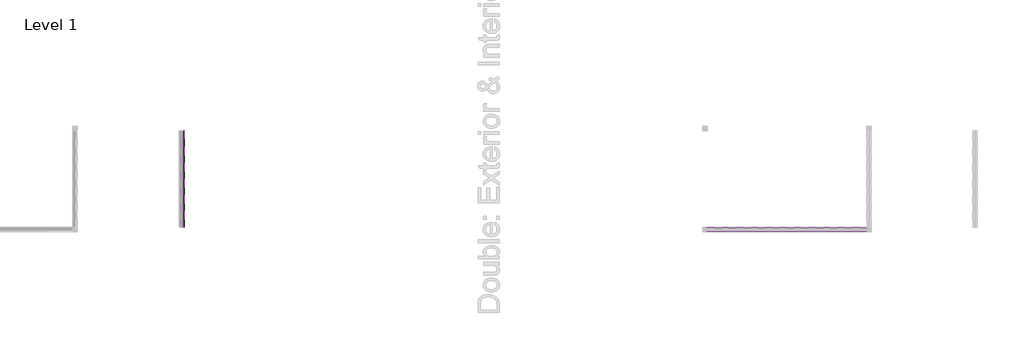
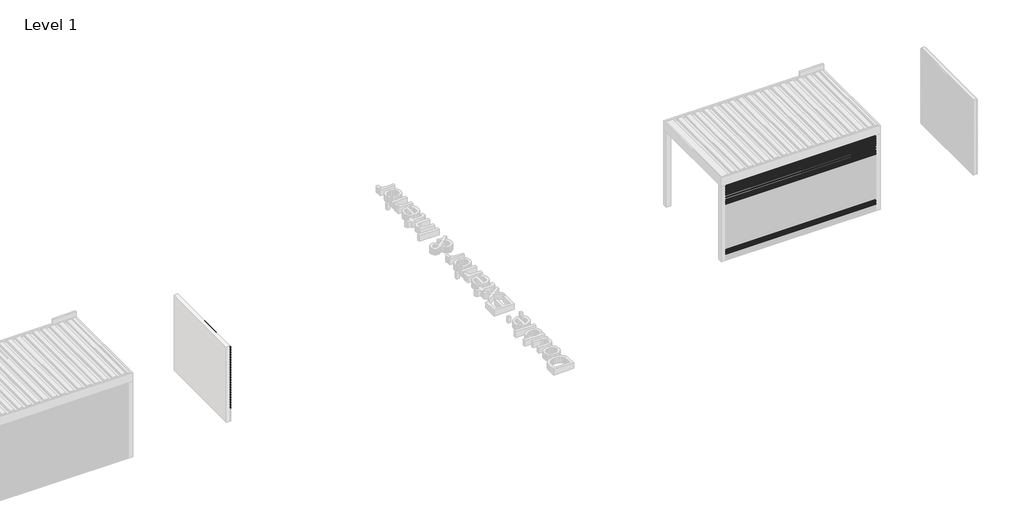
# One storey, part 41 of 47: 85 proxies.
"""IFC4 building model written with IfcOpenShell, lengths in millimetres."""

from ifc_helpers import new_model, si_unit, frame, origin, place, context, project, spatial, polyline, outline, extrude, element, save

model = new_model("IFC4")

# Units and contexts
model_context = context("Model", 3, world=origin())
ifc_project = project(units=[si_unit("LENGTHUNIT", "METRE", prefix="MILLI")], contexts=[model_context])

# Site, building, storey
site = spatial("IfcSite", under=ifc_project)
building = spatial("IfcBuilding", under=site)
storey = spatial("IfcBuildingStorey", under=building, Name="Level 1", Elevation=0.0)

# Proxies
placement = place(None, origin())
element("IfcBuildingElementProxy", 1, Name="Wall Sweeps", at=placement, inside=storey, context=model_context, shape_type="SweptSolid", body=[
    extrude(outline(polyline([(1974.0, 192892.4238385), (1985.0562577, 192873.2738385), (1998.0, 192873.2738385), (1998.0, 192872.0238385), (1984.3345698, 192872.0238385), (1973.2782281, 192891.1738385), (1961.2216933, 192891.1738385), (1960.5, 192892.4238385), (1974.0, 192892.4238385)])), frame((0.0, 39632.1593685, 0.0), z_axis=(0.0, 1.0, 0.0), x_axis=(0.0, 0.0, 1.0)), (0.0, 0.0, 1.0), 2280.0),
])
element("IfcBuildingElementProxy", 2, Name="Wall Sweeps", at=placement, inside=storey, context=model_context, shape_type="SweptSolid", body=[
    extrude(outline(polyline([(1940.7, 192892.4238385), (1951.7562577, 192873.2738385), (1964.7, 192873.2738385), (1964.7, 192872.0238385), (1951.0345698, 192872.0238385), (1939.9782281, 192891.1738385), (1927.9216933, 192891.1738385), (1927.2, 192892.4238385), (1940.7, 192892.4238385)])), frame((0.0, 39632.1593685, 0.0), z_axis=(0.0, 1.0, 0.0), x_axis=(0.0, 0.0, 1.0)), (0.0, 0.0, 1.0), 2280.0),
])
element("IfcBuildingElementProxy", 3, Name="Wall Sweeps", at=placement, inside=storey, context=model_context, shape_type="SweptSolid", body=[
    extrude(outline(polyline([(1907.4, 192892.4238385), (1918.4562577, 192873.2738385), (1931.4, 192873.2738385), (1931.4, 192872.0238385), (1917.7345698, 192872.0238385), (1906.6782281, 192891.1738385), (1894.6216933, 192891.1738385), (1893.9, 192892.4238385), (1907.4, 192892.4238385)])), frame((0.0, 39632.1593685, 0.0), z_axis=(0.0, 1.0, 0.0), x_axis=(0.0, 0.0, 1.0)), (0.0, 0.0, 1.0), 2280.0),
])
element("IfcBuildingElementProxy", 4, Name="Wall Sweeps", at=placement, inside=storey, context=model_context, shape_type="SweptSolid", body=[
    extrude(outline(polyline([(1874.1, 192892.4238385), (1885.1562577, 192873.2738385), (1898.1, 192873.2738385), (1898.1, 192872.0238385), (1884.4345698, 192872.0238385), (1873.3782281, 192891.1738385), (1861.3216933, 192891.1738385), (1860.6, 192892.4238385), (1874.1, 192892.4238385)])), frame((0.0, 39632.1593685, 0.0), z_axis=(0.0, 1.0, 0.0), x_axis=(0.0, 0.0, 1.0)), (0.0, 0.0, 1.0), 2280.0),
])
element("IfcBuildingElementProxy", 5, Name="Wall Sweeps", at=placement, inside=storey, context=model_context, shape_type="SweptSolid", body=[
    extrude(outline(polyline([(1840.8, 192892.4238385), (1851.8562577, 192873.2738385), (1864.8, 192873.2738385), (1864.8, 192872.0238385), (1851.1345698, 192872.0238385), (1840.0782281, 192891.1738385), (1828.0216933, 192891.1738385), (1827.3, 192892.4238385), (1840.8, 192892.4238385)])), frame((0.0, 39632.1593685, 0.0), z_axis=(0.0, 1.0, 0.0), x_axis=(0.0, 0.0, 1.0)), (0.0, 0.0, 1.0), 2280.0),
])
element("IfcBuildingElementProxy", 6, Name="Wall Sweeps", at=placement, inside=storey, context=model_context, shape_type="SweptSolid", body=[
    extrude(outline(polyline([(1807.5, 192892.4238385), (1818.5562577, 192873.2738385), (1831.5, 192873.2738385), (1831.5, 192872.0238385), (1817.8345698, 192872.0238385), (1806.7782281, 192891.1738385), (1794.7216933, 192891.1738385), (1794.0, 192892.4238385), (1807.5, 192892.4238385)])), frame((0.0, 39632.1593685, 0.0), z_axis=(0.0, 1.0, 0.0), x_axis=(0.0, 0.0, 1.0)), (0.0, 0.0, 1.0), 2280.0),
])
element("IfcBuildingElementProxy", 7, Name="Wall Sweeps", at=placement, inside=storey, context=model_context, shape_type="SweptSolid", body=[
    extrude(outline(polyline([(1774.2, 192892.4238385), (1785.2562577, 192873.2738385), (1798.2, 192873.2738385), (1798.2, 192872.0238385), (1784.5345698, 192872.0238385), (1773.4782281, 192891.1738385), (1761.4216933, 192891.1738385), (1760.7, 192892.4238385), (1774.2, 192892.4238385)])), frame((0.0, 39632.1593685, 0.0), z_axis=(0.0, 1.0, 0.0), x_axis=(0.0, 0.0, 1.0)), (0.0, 0.0, 1.0), 2280.0),
])
element("IfcBuildingElementProxy", 8, Name="Wall Sweeps", at=placement, inside=storey, context=model_context, shape_type="SweptSolid", body=[
    extrude(outline(polyline([(1740.9, 192892.4238385), (1751.9562577, 192873.2738385), (1764.9, 192873.2738385), (1764.9, 192872.0238385), (1751.2345698, 192872.0238385), (1740.1782281, 192891.1738385), (1728.1216933, 192891.1738385), (1727.4, 192892.4238385), (1740.9, 192892.4238385)])), frame((0.0, 39632.1593685, 0.0), z_axis=(0.0, 1.0, 0.0), x_axis=(0.0, 0.0, 1.0)), (0.0, 0.0, 1.0), 2280.0),
])
element("IfcBuildingElementProxy", 9, Name="Wall Sweeps", at=placement, inside=storey, context=model_context, shape_type="SweptSolid", body=[
    extrude(outline(polyline([(1707.6, 192892.4238385), (1718.6562577, 192873.2738385), (1731.6, 192873.2738385), (1731.6, 192872.0238385), (1717.9345698, 192872.0238385), (1706.8782281, 192891.1738385), (1694.8216933, 192891.1738385), (1694.1, 192892.4238385), (1707.6, 192892.4238385)])), frame((0.0, 39632.1593685, 0.0), z_axis=(0.0, 1.0, 0.0), x_axis=(0.0, 0.0, 1.0)), (0.0, 0.0, 1.0), 2280.0),
])
element("IfcBuildingElementProxy", 10, Name="Wall Sweeps", at=placement, inside=storey, context=model_context, shape_type="SweptSolid", body=[
    extrude(outline(polyline([(1674.3, 192892.4238385), (1685.3562577, 192873.2738385), (1698.3, 192873.2738385), (1698.3, 192872.0238385), (1684.6345698, 192872.0238385), (1673.5782281, 192891.1738385), (1661.5216933, 192891.1738385), (1660.8, 192892.4238385), (1674.3, 192892.4238385)])), frame((0.0, 39632.1593685, 0.0), z_axis=(0.0, 1.0, 0.0), x_axis=(0.0, 0.0, 1.0)), (0.0, 0.0, 1.0), 2280.0),
])
element("IfcBuildingElementProxy", 11, Name="Wall Sweeps", at=placement, inside=storey, context=model_context, shape_type="SweptSolid", body=[
    extrude(outline(polyline([(1641.0, 192892.4238385), (1652.0562577, 192873.2738385), (1665.0, 192873.2738385), (1665.0, 192872.0238385), (1651.3345698, 192872.0238385), (1640.2782281, 192891.1738385), (1628.2216933, 192891.1738385), (1627.5, 192892.4238385), (1641.0, 192892.4238385)])), frame((0.0, 39632.1593685, 0.0), z_axis=(0.0, 1.0, 0.0), x_axis=(0.0, 0.0, 1.0)), (0.0, 0.0, 1.0), 2280.0),
])
element("IfcBuildingElementProxy", 12, Name="Wall Sweeps", at=placement, inside=storey, context=model_context, shape_type="SweptSolid", body=[
    extrude(outline(polyline([(1607.7, 192892.4238385), (1618.7562577, 192873.2738385), (1631.7, 192873.2738385), (1631.7, 192872.0238385), (1618.0345698, 192872.0238385), (1606.9782281, 192891.1738385), (1594.9216933, 192891.1738385), (1594.2, 192892.4238385), (1607.7, 192892.4238385)])), frame((0.0, 39632.1593685, 0.0), z_axis=(0.0, 1.0, 0.0), x_axis=(0.0, 0.0, 1.0)), (0.0, 0.0, 1.0), 2280.0),
])
element("IfcBuildingElementProxy", 13, Name="Wall Sweeps", at=placement, inside=storey, context=model_context, shape_type="SweptSolid", body=[
    extrude(outline(polyline([(1574.4, 192892.4238385), (1585.4562577, 192873.2738385), (1598.4, 192873.2738385), (1598.4, 192872.0238385), (1584.7345698, 192872.0238385), (1573.6782281, 192891.1738385), (1561.6216933, 192891.1738385), (1560.9, 192892.4238385), (1574.4, 192892.4238385)])), frame((0.0, 39632.1593685, 0.0), z_axis=(0.0, 1.0, 0.0), x_axis=(0.0, 0.0, 1.0)), (0.0, 0.0, 1.0), 2280.0),
])
element("IfcBuildingElementProxy", 14, Name="Wall Sweeps", at=placement, inside=storey, context=model_context, shape_type="SweptSolid", body=[
    extrude(outline(polyline([(1541.1, 192892.4238385), (1552.1562577, 192873.2738385), (1565.1, 192873.2738385), (1565.1, 192872.0238385), (1551.4345698, 192872.0238385), (1540.3782281, 192891.1738385), (1528.3216933, 192891.1738385), (1527.6, 192892.4238385), (1541.1, 192892.4238385)])), frame((0.0, 39632.1593685, 0.0), z_axis=(0.0, 1.0, 0.0), x_axis=(0.0, 0.0, 1.0)), (0.0, 0.0, 1.0), 2280.0),
])
element("IfcBuildingElementProxy", 15, Name="Wall Sweeps", at=placement, inside=storey, context=model_context, shape_type="SweptSolid", body=[
    extrude(outline(polyline([(1507.8, 192892.4238385), (1518.8562577, 192873.2738385), (1531.8, 192873.2738385), (1531.8, 192872.0238385), (1518.1345698, 192872.0238385), (1507.0782281, 192891.1738385), (1495.0216933, 192891.1738385), (1494.3, 192892.4238385), (1507.8, 192892.4238385)])), frame((0.0, 39632.1593685, 0.0), z_axis=(0.0, 1.0, 0.0), x_axis=(0.0, 0.0, 1.0)), (0.0, 0.0, 1.0), 2280.0),
])
element("IfcBuildingElementProxy", 16, Name="Wall Sweeps", at=placement, inside=storey, context=model_context, shape_type="SweptSolid", body=[
    extrude(outline(polyline([(1474.5, 192892.4238385), (1485.5562577, 192873.2738385), (1498.5, 192873.2738385), (1498.5, 192872.0238385), (1484.8345698, 192872.0238385), (1473.7782281, 192891.1738385), (1461.7216933, 192891.1738385), (1461.0, 192892.4238385), (1474.5, 192892.4238385)])), frame((0.0, 39632.1593685, 0.0), z_axis=(0.0, 1.0, 0.0), x_axis=(0.0, 0.0, 1.0)), (0.0, 0.0, 1.0), 2280.0),
])
element("IfcBuildingElementProxy", 17, Name="Wall Sweeps", at=placement, inside=storey, context=model_context, shape_type="SweptSolid", body=[
    extrude(outline(polyline([(1441.2, 192892.4238385), (1452.2562577, 192873.2738385), (1465.2, 192873.2738385), (1465.2, 192872.0238385), (1451.5345698, 192872.0238385), (1440.4782281, 192891.1738385), (1428.4216933, 192891.1738385), (1427.7, 192892.4238385), (1441.2, 192892.4238385)])), frame((0.0, 39632.1593685, 0.0), z_axis=(0.0, 1.0, 0.0), x_axis=(0.0, 0.0, 1.0)), (0.0, 0.0, 1.0), 2280.0),
])
element("IfcBuildingElementProxy", 18, Name="Wall Sweeps", at=placement, inside=storey, context=model_context, shape_type="SweptSolid", body=[
    extrude(outline(polyline([(1407.9, 192892.4238385), (1418.9562577, 192873.2738385), (1431.9, 192873.2738385), (1431.9, 192872.0238385), (1418.2345698, 192872.0238385), (1407.1782281, 192891.1738385), (1395.1216933, 192891.1738385), (1394.4, 192892.4238385), (1407.9, 192892.4238385)])), frame((0.0, 39632.1593685, 0.0), z_axis=(0.0, 1.0, 0.0), x_axis=(0.0, 0.0, 1.0)), (0.0, 0.0, 1.0), 2280.0),
])
element("IfcBuildingElementProxy", 19, Name="Wall Sweeps", at=placement, inside=storey, context=model_context, shape_type="SweptSolid", body=[
    extrude(outline(polyline([(1374.6, 192892.4238385), (1385.6562577, 192873.2738385), (1398.6, 192873.2738385), (1398.6, 192872.0238385), (1384.9345698, 192872.0238385), (1373.8782281, 192891.1738385), (1361.8216933, 192891.1738385), (1361.1, 192892.4238385), (1374.6, 192892.4238385)])), frame((0.0, 39632.1593685, 0.0), z_axis=(0.0, 1.0, 0.0), x_axis=(0.0, 0.0, 1.0)), (0.0, 0.0, 1.0), 2280.0),
])
element("IfcBuildingElementProxy", 20, Name="Wall Sweeps", at=placement, inside=storey, context=model_context, shape_type="SweptSolid", body=[
    extrude(outline(polyline([(1341.3, 192892.4238385), (1352.3562577, 192873.2738385), (1365.3, 192873.2738385), (1365.3, 192872.0238385), (1351.6345698, 192872.0238385), (1340.5782281, 192891.1738385), (1328.5216933, 192891.1738385), (1327.8, 192892.4238385), (1341.3, 192892.4238385)])), frame((0.0, 39632.1593685, 0.0), z_axis=(0.0, 1.0, 0.0), x_axis=(0.0, 0.0, 1.0)), (0.0, 0.0, 1.0), 2280.0),
])
element("IfcBuildingElementProxy", 21, Name="Wall Sweeps", at=placement, inside=storey, context=model_context, shape_type="SweptSolid", body=[
    extrude(outline(polyline([(1308.0, 192892.4238385), (1319.0562577, 192873.2738385), (1332.0, 192873.2738385), (1332.0, 192872.0238385), (1318.3345698, 192872.0238385), (1307.2782281, 192891.1738385), (1295.2216933, 192891.1738385), (1294.5, 192892.4238385), (1308.0, 192892.4238385)])), frame((0.0, 39632.1593685, 0.0), z_axis=(0.0, 1.0, 0.0), x_axis=(0.0, 0.0, 1.0)), (0.0, 0.0, 1.0), 2280.0),
])
element("IfcBuildingElementProxy", 22, Name="Wall Sweeps", at=placement, inside=storey, context=model_context, shape_type="SweptSolid", body=[
    extrude(outline(polyline([(1274.7, 192892.4238385), (1285.7562577, 192873.2738385), (1298.7, 192873.2738385), (1298.7, 192872.0238385), (1285.0345698, 192872.0238385), (1273.9782281, 192891.1738385), (1261.9216933, 192891.1738385), (1261.2, 192892.4238385), (1274.7, 192892.4238385)])), frame((0.0, 39632.1593685, 0.0), z_axis=(0.0, 1.0, 0.0), x_axis=(0.0, 0.0, 1.0)), (0.0, 0.0, 1.0), 2280.0),
])
element("IfcBuildingElementProxy", 23, Name="Wall Sweeps", at=placement, inside=storey, context=model_context, shape_type="SweptSolid", body=[
    extrude(outline(polyline([(1241.4, 192892.4238385), (1252.4562577, 192873.2738385), (1265.4, 192873.2738385), (1265.4, 192872.0238385), (1251.7345698, 192872.0238385), (1240.6782281, 192891.1738385), (1228.6216933, 192891.1738385), (1227.9, 192892.4238385), (1241.4, 192892.4238385)])), frame((0.0, 39632.1593685, 0.0), z_axis=(0.0, 1.0, 0.0), x_axis=(0.0, 0.0, 1.0)), (0.0, 0.0, 1.0), 2280.0),
])
element("IfcBuildingElementProxy", 24, Name="Wall Sweeps", at=placement, inside=storey, context=model_context, shape_type="SweptSolid", body=[
    extrude(outline(polyline([(1208.1, 192892.4238385), (1219.1562577, 192873.2738385), (1232.1, 192873.2738385), (1232.1, 192872.0238385), (1218.4345698, 192872.0238385), (1207.3782281, 192891.1738385), (1195.3216933, 192891.1738385), (1194.6, 192892.4238385), (1208.1, 192892.4238385)])), frame((0.0, 39632.1593685, 0.0), z_axis=(0.0, 1.0, 0.0), x_axis=(0.0, 0.0, 1.0)), (0.0, 0.0, 1.0), 2280.0),
])
element("IfcBuildingElementProxy", 25, Name="Wall Sweeps", at=placement, inside=storey, context=model_context, shape_type="SweptSolid", body=[
    extrude(outline(polyline([(1174.8, 192892.4238385), (1185.8562577, 192873.2738385), (1198.8, 192873.2738385), (1198.8, 192872.0238385), (1185.1345698, 192872.0238385), (1174.0782281, 192891.1738385), (1162.0216933, 192891.1738385), (1161.3, 192892.4238385), (1174.8, 192892.4238385)])), frame((0.0, 39632.1593685, 0.0), z_axis=(0.0, 1.0, 0.0), x_axis=(0.0, 0.0, 1.0)), (0.0, 0.0, 1.0), 2280.0),
])
element("IfcBuildingElementProxy", 26, Name="Wall Sweeps", at=placement, inside=storey, context=model_context, shape_type="SweptSolid", body=[
    extrude(outline(polyline([(1141.5, 192892.4238385), (1152.5562577, 192873.2738385), (1165.5, 192873.2738385), (1165.5, 192872.0238385), (1151.8345698, 192872.0238385), (1140.7782281, 192891.1738385), (1128.7216933, 192891.1738385), (1128.0, 192892.4238385), (1141.5, 192892.4238385)])), frame((0.0, 39632.1593685, 0.0), z_axis=(0.0, 1.0, 0.0), x_axis=(0.0, 0.0, 1.0)), (0.0, 0.0, 1.0), 2280.0),
])
element("IfcBuildingElementProxy", 27, Name="Wall Sweeps", at=placement, inside=storey, context=model_context, shape_type="SweptSolid", body=[
    extrude(outline(polyline([(1108.2, 192892.4238385), (1119.2562577, 192873.2738385), (1132.2, 192873.2738385), (1132.2, 192872.0238385), (1118.5345698, 192872.0238385), (1107.4782281, 192891.1738385), (1095.4216933, 192891.1738385), (1094.7, 192892.4238385), (1108.2, 192892.4238385)])), frame((0.0, 39632.1593685, 0.0), z_axis=(0.0, 1.0, 0.0), x_axis=(0.0, 0.0, 1.0)), (0.0, 0.0, 1.0), 2280.0),
])
element("IfcBuildingElementProxy", 28, Name="Wall Sweeps", at=placement, inside=storey, context=model_context, shape_type="SweptSolid", body=[
    extrude(outline(polyline([(1074.9, 192892.4238385), (1085.9562577, 192873.2738385), (1098.9, 192873.2738385), (1098.9, 192872.0238385), (1085.2345698, 192872.0238385), (1074.1782281, 192891.1738385), (1062.1216933, 192891.1738385), (1061.4, 192892.4238385), (1074.9, 192892.4238385)])), frame((0.0, 39632.1593685, 0.0), z_axis=(0.0, 1.0, 0.0), x_axis=(0.0, 0.0, 1.0)), (0.0, 0.0, 1.0), 2280.0),
])
element("IfcBuildingElementProxy", 29, Name="Wall Sweeps", at=placement, inside=storey, context=model_context, shape_type="SweptSolid", body=[
    extrude(outline(polyline([(1041.6, 192892.4238385), (1052.6562577, 192873.2738385), (1065.6, 192873.2738385), (1065.6, 192872.0238385), (1051.9345698, 192872.0238385), (1040.8782281, 192891.1738385), (1028.8216933, 192891.1738385), (1028.1, 192892.4238385), (1041.6, 192892.4238385)])), frame((0.0, 39632.1593685, 0.0), z_axis=(0.0, 1.0, 0.0), x_axis=(0.0, 0.0, 1.0)), (0.0, 0.0, 1.0), 2280.0),
])
element("IfcBuildingElementProxy", 30, Name="Wall Sweeps", at=placement, inside=storey, context=model_context, shape_type="SweptSolid", body=[
    extrude(outline(polyline([(1008.3, 192892.4238385), (1019.3562577, 192873.2738385), (1032.3, 192873.2738385), (1032.3, 192872.0238385), (1018.6345698, 192872.0238385), (1007.5782281, 192891.1738385), (995.5216933, 192891.1738385), (994.8, 192892.4238385), (1008.3, 192892.4238385)])), frame((0.0, 39632.1593685, 0.0), z_axis=(0.0, 1.0, 0.0), x_axis=(0.0, 0.0, 1.0)), (0.0, 0.0, 1.0), 2280.0),
])
element("IfcBuildingElementProxy", 31, Name="Wall Sweeps", at=placement, inside=storey, context=model_context, shape_type="SweptSolid", body=[
    extrude(outline(polyline([(975.0, 192892.4238385), (986.0562577, 192873.2738385), (999.0, 192873.2738385), (999.0, 192872.0238385), (985.3345698, 192872.0238385), (974.2782281, 192891.1738385), (962.2216933, 192891.1738385), (961.5, 192892.4238385), (975.0, 192892.4238385)])), frame((0.0, 39632.1593685, 0.0), z_axis=(0.0, 1.0, 0.0), x_axis=(0.0, 0.0, 1.0)), (0.0, 0.0, 1.0), 2280.0),
])
element("IfcBuildingElementProxy", 32, Name="Wall Sweeps", at=placement, inside=storey, context=model_context, shape_type="SweptSolid", body=[
    extrude(outline(polyline([(941.7, 192892.4238385), (952.7562577, 192873.2738385), (965.7, 192873.2738385), (965.7, 192872.0238385), (952.0345698, 192872.0238385), (940.9782281, 192891.1738385), (928.9216933, 192891.1738385), (928.2, 192892.4238385), (941.7, 192892.4238385)])), frame((0.0, 39632.1593685, 0.0), z_axis=(0.0, 1.0, 0.0), x_axis=(0.0, 0.0, 1.0)), (0.0, 0.0, 1.0), 2280.0),
])
element("IfcBuildingElementProxy", 33, Name="Wall Sweeps", at=placement, inside=storey, context=model_context, shape_type="SweptSolid", body=[
    extrude(outline(polyline([(908.4, 192892.4238385), (919.4562577, 192873.2738385), (932.4, 192873.2738385), (932.4, 192872.0238385), (918.7345698, 192872.0238385), (907.6782281, 192891.1738385), (895.6216933, 192891.1738385), (894.9, 192892.4238385), (908.4, 192892.4238385)])), frame((0.0, 39632.1593685, 0.0), z_axis=(0.0, 1.0, 0.0), x_axis=(0.0, 0.0, 1.0)), (0.0, 0.0, 1.0), 2280.0),
])
element("IfcBuildingElementProxy", 34, Name="Wall Sweeps", at=placement, inside=storey, context=model_context, shape_type="SweptSolid", body=[
    extrude(outline(polyline([(875.1, 192892.4238385), (886.1562577, 192873.2738385), (899.1, 192873.2738385), (899.1, 192872.0238385), (885.4345698, 192872.0238385), (874.3782281, 192891.1738385), (862.3216933, 192891.1738385), (861.6, 192892.4238385), (875.1, 192892.4238385)])), frame((0.0, 39632.1593685, 0.0), z_axis=(0.0, 1.0, 0.0), x_axis=(0.0, 0.0, 1.0)), (0.0, 0.0, 1.0), 2280.0),
])
element("IfcBuildingElementProxy", 35, Name="Wall Sweeps", at=placement, inside=storey, context=model_context, shape_type="SweptSolid", body=[
    extrude(outline(polyline([(841.8, 192892.4238385), (852.8562577, 192873.2738385), (865.8, 192873.2738385), (865.8, 192872.0238385), (852.1345698, 192872.0238385), (841.0782281, 192891.1738385), (829.0216933, 192891.1738385), (828.3, 192892.4238385), (841.8, 192892.4238385)])), frame((0.0, 39632.1593685, 0.0), z_axis=(0.0, 1.0, 0.0), x_axis=(0.0, 0.0, 1.0)), (0.0, 0.0, 1.0), 2280.0),
])
element("IfcBuildingElementProxy", 36, Name="Wall Sweeps", at=placement, inside=storey, context=model_context, shape_type="SweptSolid", body=[
    extrude(outline(polyline([(808.5, 192892.4238385), (819.5562577, 192873.2738385), (832.5, 192873.2738385), (832.5, 192872.0238385), (818.8345698, 192872.0238385), (807.7782281, 192891.1738385), (795.7216933, 192891.1738385), (795.0, 192892.4238385), (808.5, 192892.4238385)])), frame((0.0, 39632.1593685, 0.0), z_axis=(0.0, 1.0, 0.0), x_axis=(0.0, 0.0, 1.0)), (0.0, 0.0, 1.0), 2280.0),
])
element("IfcBuildingElementProxy", 37, Name="Wall Sweeps", at=placement, inside=storey, context=model_context, shape_type="SweptSolid", body=[
    extrude(outline(polyline([(775.2, 192892.4238385), (786.2562577, 192873.2738385), (799.2, 192873.2738385), (799.2, 192872.0238385), (785.5345698, 192872.0238385), (774.4782281, 192891.1738385), (762.4216933, 192891.1738385), (761.7, 192892.4238385), (775.2, 192892.4238385)])), frame((0.0, 39632.1593685, 0.0), z_axis=(0.0, 1.0, 0.0), x_axis=(0.0, 0.0, 1.0)), (0.0, 0.0, 1.0), 2280.0),
])
element("IfcBuildingElementProxy", 38, Name="Wall Sweeps", at=placement, inside=storey, context=model_context, shape_type="SweptSolid", body=[
    extrude(outline(polyline([(741.9, 192892.4238385), (752.9562577, 192873.2738385), (765.9, 192873.2738385), (765.9, 192872.0238385), (752.2345698, 192872.0238385), (741.1782281, 192891.1738385), (729.1216933, 192891.1738385), (728.4, 192892.4238385), (741.9, 192892.4238385)])), frame((0.0, 39632.1593685, 0.0), z_axis=(0.0, 1.0, 0.0), x_axis=(0.0, 0.0, 1.0)), (0.0, 0.0, 1.0), 2280.0),
])
element("IfcBuildingElementProxy", 39, Name="Wall Sweeps", at=placement, inside=storey, context=model_context, shape_type="SweptSolid", body=[
    extrude(outline(polyline([(708.6, 192892.4238385), (719.6562577, 192873.2738385), (732.6, 192873.2738385), (732.6, 192872.0238385), (718.9345698, 192872.0238385), (707.8782281, 192891.1738385), (695.8216933, 192891.1738385), (695.1, 192892.4238385), (708.6, 192892.4238385)])), frame((0.0, 39632.1593685, 0.0), z_axis=(0.0, 1.0, 0.0), x_axis=(0.0, 0.0, 1.0)), (0.0, 0.0, 1.0), 2280.0),
])
element("IfcBuildingElementProxy", 40, Name="Wall Sweeps", at=placement, inside=storey, context=model_context, shape_type="SweptSolid", body=[
    extrude(outline(polyline([(675.3, 192892.4238385), (686.3562577, 192873.2738385), (699.3, 192873.2738385), (699.3, 192872.0238385), (685.6345698, 192872.0238385), (674.5782281, 192891.1738385), (662.5216933, 192891.1738385), (661.8, 192892.4238385), (675.3, 192892.4238385)])), frame((0.0, 39632.1593685, 0.0), z_axis=(0.0, 1.0, 0.0), x_axis=(0.0, 0.0, 1.0)), (0.0, 0.0, 1.0), 2280.0),
])
element("IfcBuildingElementProxy", 41, Name="Wall Sweeps", at=placement, inside=storey, context=model_context, shape_type="SweptSolid", body=[
    extrude(outline(polyline([(642.0, 192892.4238385), (653.0562577, 192873.2738385), (666.0, 192873.2738385), (666.0, 192872.0238385), (652.3345698, 192872.0238385), (641.2782281, 192891.1738385), (629.2216933, 192891.1738385), (628.5, 192892.4238385), (642.0, 192892.4238385)])), frame((0.0, 39632.1593685, 0.0), z_axis=(0.0, 1.0, 0.0), x_axis=(0.0, 0.0, 1.0)), (0.0, 0.0, 1.0), 2280.0),
])
element("IfcBuildingElementProxy", 42, Name="Wall Sweeps", at=placement, inside=storey, context=model_context, shape_type="SweptSolid", body=[
    extrude(outline(polyline([(608.7, 192892.4238385), (619.7562577, 192873.2738385), (632.7, 192873.2738385), (632.7, 192872.0238385), (619.0345698, 192872.0238385), (607.9782281, 192891.1738385), (595.9216933, 192891.1738385), (595.2, 192892.4238385), (608.7, 192892.4238385)])), frame((0.0, 39632.1593685, 0.0), z_axis=(0.0, 1.0, 0.0), x_axis=(0.0, 0.0, 1.0)), (0.0, 0.0, 1.0), 2280.0),
])
element("IfcBuildingElementProxy", 43, Name="Wall Sweeps", at=placement, inside=storey, context=model_context, shape_type="SweptSolid", body=[
    extrude(outline(polyline([(575.4, 192892.4238385), (586.4562577, 192873.2738385), (599.4, 192873.2738385), (599.4, 192872.0238385), (585.7345698, 192872.0238385), (574.6782281, 192891.1738385), (562.6216933, 192891.1738385), (561.9, 192892.4238385), (575.4, 192892.4238385)])), frame((0.0, 39632.1593685, 0.0), z_axis=(0.0, 1.0, 0.0), x_axis=(0.0, 0.0, 1.0)), (0.0, 0.0, 1.0), 2280.0),
])
element("IfcBuildingElementProxy", 44, Name="Wall Sweeps", at=placement, inside=storey, context=model_context, shape_type="SweptSolid", body=[
    extrude(outline(polyline([(542.1, 192892.4238385), (553.1562577, 192873.2738385), (566.1, 192873.2738385), (566.1, 192872.0238385), (552.4345698, 192872.0238385), (541.3782281, 192891.1738385), (529.3216933, 192891.1738385), (528.6, 192892.4238385), (542.1, 192892.4238385)])), frame((0.0, 39632.1593685, 0.0), z_axis=(0.0, 1.0, 0.0), x_axis=(0.0, 0.0, 1.0)), (0.0, 0.0, 1.0), 2280.0),
])
element("IfcBuildingElementProxy", 45, Name="Wall Sweeps", at=placement, inside=storey, context=model_context, shape_type="SweptSolid", body=[
    extrude(outline(polyline([(508.8, 192892.4238385), (519.8562577, 192873.2738385), (532.8, 192873.2738385), (532.8, 192872.0238385), (519.1345698, 192872.0238385), (508.0782281, 192891.1738385), (496.0216933, 192891.1738385), (495.3, 192892.4238385), (508.8, 192892.4238385)])), frame((0.0, 39632.1593685, 0.0), z_axis=(0.0, 1.0, 0.0), x_axis=(0.0, 0.0, 1.0)), (0.0, 0.0, 1.0), 2280.0),
])
element("IfcBuildingElementProxy", 46, Name="Wall Sweeps", at=placement, inside=storey, context=model_context, shape_type="SweptSolid", body=[
    extrude(outline(polyline([(475.5, 192892.4238385), (486.5562577, 192873.2738385), (499.5, 192873.2738385), (499.5, 192872.0238385), (485.8345698, 192872.0238385), (474.7782281, 192891.1738385), (462.7216933, 192891.1738385), (462.0, 192892.4238385), (475.5, 192892.4238385)])), frame((0.0, 39632.1593685, 0.0), z_axis=(0.0, 1.0, 0.0), x_axis=(0.0, 0.0, 1.0)), (0.0, 0.0, 1.0), 2280.0),
])
element("IfcBuildingElementProxy", 47, Name="Wall Sweeps", at=placement, inside=storey, context=model_context, shape_type="SweptSolid", body=[
    extrude(outline(polyline([(442.2, 192892.4238385), (453.2562577, 192873.2738385), (466.2, 192873.2738385), (466.2, 192872.0238385), (452.5345698, 192872.0238385), (441.4782281, 192891.1738385), (429.4216933, 192891.1738385), (428.7, 192892.4238385), (442.2, 192892.4238385)])), frame((0.0, 39632.1593685, 0.0), z_axis=(0.0, 1.0, 0.0), x_axis=(0.0, 0.0, 1.0)), (0.0, 0.0, 1.0), 2280.0),
])
element("IfcBuildingElementProxy", 48, Name="Wall Sweeps", at=placement, inside=storey, context=model_context, shape_type="SweptSolid", body=[
    extrude(outline(polyline([(408.9, 192892.4238385), (419.9562577, 192873.2738385), (432.9, 192873.2738385), (432.9, 192872.0238385), (419.2345698, 192872.0238385), (408.1782281, 192891.1738385), (396.1216933, 192891.1738385), (395.4, 192892.4238385), (408.9, 192892.4238385)])), frame((0.0, 39632.1593685, 0.0), z_axis=(0.0, 1.0, 0.0), x_axis=(0.0, 0.0, 1.0)), (0.0, 0.0, 1.0), 2280.0),
])
element("IfcBuildingElementProxy", 49, Name="Wall Sweeps", at=placement, inside=storey, context=model_context, shape_type="SweptSolid", body=[
    extrude(outline(polyline([(375.6, 192892.4238385), (386.6562577, 192873.2738385), (399.6, 192873.2738385), (399.6, 192872.0238385), (385.9345698, 192872.0238385), (374.8782281, 192891.1738385), (362.8216933, 192891.1738385), (362.1, 192892.4238385), (375.6, 192892.4238385)])), frame((0.0, 39632.1593685, 0.0), z_axis=(0.0, 1.0, 0.0), x_axis=(0.0, 0.0, 1.0)), (0.0, 0.0, 1.0), 2280.0),
])
element("IfcBuildingElementProxy", 50, Name="Wall Sweeps", at=placement, inside=storey, context=model_context, shape_type="SweptSolid", body=[
    extrude(outline(polyline([(342.3, 192892.4238385), (353.3562577, 192873.2738385), (366.3, 192873.2738385), (366.3, 192872.0238385), (352.6345698, 192872.0238385), (341.5782281, 192891.1738385), (329.5216933, 192891.1738385), (328.8, 192892.4238385), (342.3, 192892.4238385)])), frame((0.0, 39632.1593685, 0.0), z_axis=(0.0, 1.0, 0.0), x_axis=(0.0, 0.0, 1.0)), (0.0, 0.0, 1.0), 2280.0),
])
element("IfcBuildingElementProxy", 51, Name="Wall Sweeps", at=placement, inside=storey, context=model_context, shape_type="SweptSolid", body=[
    extrude(outline(polyline([(39522.1593685, 1507.8), (39541.3093685, 1518.8562577), (39541.3093685, 1531.8), (39542.5593685, 1531.8), (39542.5593685, 1518.1345698), (39523.4093685, 1507.0782281), (39523.4093685, 1495.0216933), (39522.1593685, 1494.3), (39522.1593685, 1507.8)])), frame((205282.4238385, 0.0, 0.0), z_axis=(1.0, 0.0, 0.0), x_axis=(0.0, 1.0, 0.0)), (0.0, 0.0, 1.0), 3780.0),
])
element("IfcBuildingElementProxy", 52, Name="Wall Sweeps", at=placement, inside=storey, context=model_context, shape_type="SweptSolid", body=[
    extrude(outline(polyline([(39632.1593685, 1507.8), (39632.1593685, 1494.3), (39630.9093685, 1495.0216933), (39630.9093685, 1507.0782281), (39611.7593685, 1518.1345698), (39611.7593685, 1531.8), (39613.0093685, 1531.8), (39613.0093685, 1518.8562577), (39632.1593685, 1507.8)])), frame((205282.4238385, 0.0, 0.0), z_axis=(1.0, 0.0, 0.0), x_axis=(0.0, 1.0, 0.0)), (0.0, 0.0, 1.0), 3780.0),
])
element("IfcBuildingElementProxy", 53, Name="Wall Sweeps", at=placement, inside=storey, context=model_context, shape_type="SweptSolid", body=[
    extrude(outline(polyline([(39522.1593685, 1541.1), (39541.3093685, 1552.1562577), (39541.3093685, 1565.1), (39542.5593685, 1565.1), (39542.5593685, 1551.4345698), (39523.4093685, 1540.3782281), (39523.4093685, 1528.3216933), (39522.1593685, 1527.6), (39522.1593685, 1541.1)])), frame((205282.4238385, 0.0, 0.0), z_axis=(1.0, 0.0, 0.0), x_axis=(0.0, 1.0, 0.0)), (0.0, 0.0, 1.0), 3780.0),
])
element("IfcBuildingElementProxy", 54, Name="Wall Sweeps", at=placement, inside=storey, context=model_context, shape_type="SweptSolid", body=[
    extrude(outline(polyline([(39632.1593685, 1541.1), (39632.1593685, 1527.6), (39630.9093685, 1528.3216933), (39630.9093685, 1540.3782281), (39611.7593685, 1551.4345698), (39611.7593685, 1565.1), (39613.0093685, 1565.1), (39613.0093685, 1552.1562577), (39632.1593685, 1541.1)])), frame((205282.4238385, 0.0, 0.0), z_axis=(1.0, 0.0, 0.0), x_axis=(0.0, 1.0, 0.0)), (0.0, 0.0, 1.0), 3780.0),
])
element("IfcBuildingElementProxy", 55, Name="Wall Sweeps", at=placement, inside=storey, context=model_context, shape_type="SweptSolid", body=[
    extrude(outline(polyline([(39522.1593685, 1574.4), (39541.3093685, 1585.4562577), (39541.3093685, 1598.4), (39542.5593685, 1598.4), (39542.5593685, 1584.7345698), (39523.4093685, 1573.6782281), (39523.4093685, 1561.6216933), (39522.1593685, 1560.9), (39522.1593685, 1574.4)])), frame((205282.4238385, 0.0, 0.0), z_axis=(1.0, 0.0, 0.0), x_axis=(0.0, 1.0, 0.0)), (0.0, 0.0, 1.0), 3780.0),
])
element("IfcBuildingElementProxy", 56, Name="Wall Sweeps", at=placement, inside=storey, context=model_context, shape_type="SweptSolid", body=[
    extrude(outline(polyline([(39632.1593685, 1574.4), (39632.1593685, 1560.9), (39630.9093685, 1561.6216933), (39630.9093685, 1573.6782281), (39611.7593685, 1584.7345698), (39611.7593685, 1598.4), (39613.0093685, 1598.4), (39613.0093685, 1585.4562577), (39632.1593685, 1574.4)])), frame((205282.4238385, 0.0, 0.0), z_axis=(1.0, 0.0, 0.0), x_axis=(0.0, 1.0, 0.0)), (0.0, 0.0, 1.0), 3780.0),
])
element("IfcBuildingElementProxy", 57, Name="Wall Sweeps", at=placement, inside=storey, context=model_context, shape_type="SweptSolid", body=[
    extrude(outline(polyline([(39522.1593685, 1607.7), (39541.3093685, 1618.7562577), (39541.3093685, 1631.7), (39542.5593685, 1631.7), (39542.5593685, 1618.0345698), (39523.4093685, 1606.9782281), (39523.4093685, 1594.9216933), (39522.1593685, 1594.2), (39522.1593685, 1607.7)])), frame((205282.4238385, 0.0, 0.0), z_axis=(1.0, 0.0, 0.0), x_axis=(0.0, 1.0, 0.0)), (0.0, 0.0, 1.0), 3780.0),
])
element("IfcBuildingElementProxy", 58, Name="Wall Sweeps", at=placement, inside=storey, context=model_context, shape_type="SweptSolid", body=[
    extrude(outline(polyline([(39632.1593685, 1607.7), (39632.1593685, 1594.2), (39630.9093685, 1594.9216933), (39630.9093685, 1606.9782281), (39611.7593685, 1618.0345698), (39611.7593685, 1631.7), (39613.0093685, 1631.7), (39613.0093685, 1618.7562577), (39632.1593685, 1607.7)])), frame((205282.4238385, 0.0, 0.0), z_axis=(1.0, 0.0, 0.0), x_axis=(0.0, 1.0, 0.0)), (0.0, 0.0, 1.0), 3780.0),
])
element("IfcBuildingElementProxy", 59, Name="Wall Sweeps", at=placement, inside=storey, context=model_context, shape_type="SweptSolid", body=[
    extrude(outline(polyline([(39632.1593685, 142.7), (39632.1593685, 129.2), (39630.9093685, 129.9216933), (39630.9093685, 141.9782281), (39611.7593685, 153.0345698), (39611.7593685, 166.7), (39613.0093685, 166.7), (39613.0093685, 153.7562577), (39632.1593685, 142.7)])), frame((205282.4238385, 0.0, 0.0), z_axis=(1.0, 0.0, 0.0), x_axis=(0.0, 1.0, 0.0)), (0.0, 0.0, 1.0), 3780.0),
])
element("IfcBuildingElementProxy", 60, Name="Wall Sweeps", at=placement, inside=storey, context=model_context, shape_type="SweptSolid", body=[
    extrude(outline(polyline([(39522.1593685, 1674.3), (39541.3093685, 1685.3562577), (39541.3093685, 1698.3), (39542.5593685, 1698.3), (39542.5593685, 1684.6345698), (39523.4093685, 1673.5782281), (39523.4093685, 1661.5216933), (39522.1593685, 1660.8), (39522.1593685, 1674.3)])), frame((205282.4238385, 0.0, 0.0), z_axis=(1.0, 0.0, 0.0), x_axis=(0.0, 1.0, 0.0)), (0.0, 0.0, 1.0), 3780.0),
])
element("IfcBuildingElementProxy", 61, Name="Wall Sweeps", at=placement, inside=storey, context=model_context, shape_type="SweptSolid", body=[
    extrude(outline(polyline([(39632.1593685, 1674.3), (39632.1593685, 1660.8), (39630.9093685, 1661.5216933), (39630.9093685, 1673.5782281), (39611.7593685, 1684.6345698), (39611.7593685, 1698.3), (39613.0093685, 1698.3), (39613.0093685, 1685.3562577), (39632.1593685, 1674.3)])), frame((205282.4238385, 0.0, 0.0), z_axis=(1.0, 0.0, 0.0), x_axis=(0.0, 1.0, 0.0)), (0.0, 0.0, 1.0), 3780.0),
])
element("IfcBuildingElementProxy", 62, Name="Wall Sweeps", at=placement, inside=storey, context=model_context, shape_type="SweptSolid", body=[
    extrude(outline(polyline([(39632.1593685, 1707.7), (39632.1593685, 1694.2), (39630.9093685, 1694.9216933), (39630.9093685, 1706.9782281), (39611.7593685, 1718.0345698), (39611.7593685, 1731.7), (39613.0093685, 1731.7), (39613.0093685, 1718.7562577), (39632.1593685, 1707.7)])), frame((205282.4238385, 0.0, 0.0), z_axis=(1.0, 0.0, 0.0), x_axis=(0.0, 1.0, 0.0)), (0.0, 0.0, 1.0), 3780.0),
])
element("IfcBuildingElementProxy", 63, Name="Wall Sweeps", at=placement, inside=storey, context=model_context, shape_type="SweptSolid", body=[
    extrude(outline(polyline([(39522.1593685, 1740.9), (39541.3093685, 1751.9562577), (39541.3093685, 1764.9), (39542.5593685, 1764.9), (39542.5593685, 1751.2345698), (39523.4093685, 1740.1782281), (39523.4093685, 1728.1216933), (39522.1593685, 1727.4), (39522.1593685, 1740.9)])), frame((205282.4238385, 0.0, 0.0), z_axis=(1.0, 0.0, 0.0), x_axis=(0.0, 1.0, 0.0)), (0.0, 0.0, 1.0), 3780.0),
])
element("IfcBuildingElementProxy", 64, Name="Wall Sweeps", at=placement, inside=storey, context=model_context, shape_type="SweptSolid", body=[
    extrude(outline(polyline([(39632.1593685, 1740.9), (39632.1593685, 1727.4), (39630.9093685, 1728.1216933), (39630.9093685, 1740.1782281), (39611.7593685, 1751.2345698), (39611.7593685, 1764.9), (39613.0093685, 1764.9), (39613.0093685, 1751.9562577), (39632.1593685, 1740.9)])), frame((205282.4238385, 0.0, 0.0), z_axis=(1.0, 0.0, 0.0), x_axis=(0.0, 1.0, 0.0)), (0.0, 0.0, 1.0), 3780.0),
])
element("IfcBuildingElementProxy", 65, Name="Wall Sweeps", at=placement, inside=storey, context=model_context, shape_type="SweptSolid", body=[
    extrude(outline(polyline([(39522.1593685, 1774.2), (39541.3093685, 1785.2562577), (39541.3093685, 1798.2), (39542.5593685, 1798.2), (39542.5593685, 1784.5345698), (39523.4093685, 1773.4782281), (39523.4093685, 1761.4216933), (39522.1593685, 1760.7), (39522.1593685, 1774.2)])), frame((205282.4238385, 0.0, 0.0), z_axis=(1.0, 0.0, 0.0), x_axis=(0.0, 1.0, 0.0)), (0.0, 0.0, 1.0), 3780.0),
])
element("IfcBuildingElementProxy", 66, Name="Wall Sweeps", at=placement, inside=storey, context=model_context, shape_type="SweptSolid", body=[
    extrude(outline(polyline([(39632.1593685, 1774.2), (39632.1593685, 1760.7), (39630.9093685, 1761.4216933), (39630.9093685, 1773.4782281), (39611.7593685, 1784.5345698), (39611.7593685, 1798.2), (39613.0093685, 1798.2), (39613.0093685, 1785.2562577), (39632.1593685, 1774.2)])), frame((205282.4238385, 0.0, 0.0), z_axis=(1.0, 0.0, 0.0), x_axis=(0.0, 1.0, 0.0)), (0.0, 0.0, 1.0), 3780.0),
])
element("IfcBuildingElementProxy", 67, Name="Wall Sweeps", at=placement, inside=storey, context=model_context, shape_type="SweptSolid", body=[
    extrude(outline(polyline([(39522.1593685, 1807.5), (39541.3093685, 1818.5562577), (39541.3093685, 1831.5), (39542.5593685, 1831.5), (39542.5593685, 1817.8345698), (39523.4093685, 1806.7782281), (39523.4093685, 1794.7216933), (39522.1593685, 1794.0), (39522.1593685, 1807.5)])), frame((205282.4238385, 0.0, 0.0), z_axis=(1.0, 0.0, 0.0), x_axis=(0.0, 1.0, 0.0)), (0.0, 0.0, 1.0), 3780.0),
])
element("IfcBuildingElementProxy", 68, Name="Wall Sweeps", at=placement, inside=storey, context=model_context, shape_type="SweptSolid", body=[
    extrude(outline(polyline([(39632.1593685, 1807.5), (39632.1593685, 1794.0), (39630.9093685, 1794.7216933), (39630.9093685, 1806.7782281), (39611.7593685, 1817.8345698), (39611.7593685, 1831.5), (39613.0093685, 1831.5), (39613.0093685, 1818.5562577), (39632.1593685, 1807.5)])), frame((205282.4238385, 0.0, 0.0), z_axis=(1.0, 0.0, 0.0), x_axis=(0.0, 1.0, 0.0)), (0.0, 0.0, 1.0), 3780.0),
])
element("IfcBuildingElementProxy", 69, Name="Wall Sweeps", at=placement, inside=storey, context=model_context, shape_type="SweptSolid", body=[
    extrude(outline(polyline([(39522.1593685, 1840.8), (39541.3093685, 1851.8562577), (39541.3093685, 1864.8), (39542.5593685, 1864.8), (39542.5593685, 1851.1345698), (39523.4093685, 1840.0782281), (39523.4093685, 1828.0216933), (39522.1593685, 1827.3), (39522.1593685, 1840.8)])), frame((205282.4238385, 0.0, 0.0), z_axis=(1.0, 0.0, 0.0), x_axis=(0.0, 1.0, 0.0)), (0.0, 0.0, 1.0), 3780.0),
])
element("IfcBuildingElementProxy", 70, Name="Wall Sweeps", at=placement, inside=storey, context=model_context, shape_type="SweptSolid", body=[
    extrude(outline(polyline([(39632.1593685, 1840.8), (39632.1593685, 1827.3), (39630.9093685, 1828.0216933), (39630.9093685, 1840.0782281), (39611.7593685, 1851.1345698), (39611.7593685, 1864.8), (39613.0093685, 1864.8), (39613.0093685, 1851.8562577), (39632.1593685, 1840.8)])), frame((205282.4238385, 0.0, 0.0), z_axis=(1.0, 0.0, 0.0), x_axis=(0.0, 1.0, 0.0)), (0.0, 0.0, 1.0), 3780.0),
])
element("IfcBuildingElementProxy", 71, Name="Wall Sweeps", at=placement, inside=storey, context=model_context, shape_type="SweptSolid", body=[
    extrude(outline(polyline([(39522.1593685, 1874.1), (39541.3093685, 1885.1562577), (39541.3093685, 1898.1), (39542.5593685, 1898.1), (39542.5593685, 1884.4345698), (39523.4093685, 1873.3782281), (39523.4093685, 1861.3216933), (39522.1593685, 1860.6), (39522.1593685, 1874.1)])), frame((205282.4238385, 0.0, 0.0), z_axis=(1.0, 0.0, 0.0), x_axis=(0.0, 1.0, 0.0)), (0.0, 0.0, 1.0), 3780.0),
])
element("IfcBuildingElementProxy", 72, Name="Wall Sweeps", at=placement, inside=storey, context=model_context, shape_type="SweptSolid", body=[
    extrude(outline(polyline([(39632.1593685, 1874.1), (39632.1593685, 1860.6), (39630.9093685, 1861.3216933), (39630.9093685, 1873.3782281), (39611.7593685, 1884.4345698), (39611.7593685, 1898.1), (39613.0093685, 1898.1), (39613.0093685, 1885.1562577), (39632.1593685, 1874.1)])), frame((205282.4238385, 0.0, 0.0), z_axis=(1.0, 0.0, 0.0), x_axis=(0.0, 1.0, 0.0)), (0.0, 0.0, 1.0), 3780.0),
])
element("IfcBuildingElementProxy", 73, Name="Wall Sweeps", at=placement, inside=storey, context=model_context, shape_type="SweptSolid", body=[
    extrude(outline(polyline([(39522.1593685, 1907.4), (39541.3093685, 1918.4562577), (39541.3093685, 1931.4), (39542.5593685, 1931.4), (39542.5593685, 1917.7345698), (39523.4093685, 1906.6782281), (39523.4093685, 1894.6216933), (39522.1593685, 1893.9), (39522.1593685, 1907.4)])), frame((205282.4238385, 0.0, 0.0), z_axis=(1.0, 0.0, 0.0), x_axis=(0.0, 1.0, 0.0)), (0.0, 0.0, 1.0), 3780.0),
])
element("IfcBuildingElementProxy", 74, Name="Wall Sweeps", at=placement, inside=storey, context=model_context, shape_type="SweptSolid", body=[
    extrude(outline(polyline([(39632.1593685, 1907.4), (39632.1593685, 1893.9), (39630.9093685, 1894.6216933), (39630.9093685, 1906.6782281), (39611.7593685, 1917.7345698), (39611.7593685, 1931.4), (39613.0093685, 1931.4), (39613.0093685, 1918.4562577), (39632.1593685, 1907.4)])), frame((205282.4238385, 0.0, 0.0), z_axis=(1.0, 0.0, 0.0), x_axis=(0.0, 1.0, 0.0)), (0.0, 0.0, 1.0), 3780.0),
])
element("IfcBuildingElementProxy", 75, Name="Wall Sweeps", at=placement, inside=storey, context=model_context, shape_type="SweptSolid", body=[
    extrude(outline(polyline([(39522.1593685, 1940.7), (39541.3093685, 1951.7562577), (39541.3093685, 1964.7), (39542.5593685, 1964.7), (39542.5593685, 1951.0345698), (39523.4093685, 1939.9782281), (39523.4093685, 1927.9216933), (39522.1593685, 1927.2), (39522.1593685, 1940.7)])), frame((205282.4238385, 0.0, 0.0), z_axis=(1.0, 0.0, 0.0), x_axis=(0.0, 1.0, 0.0)), (0.0, 0.0, 1.0), 3780.0),
])
element("IfcBuildingElementProxy", 76, Name="Wall Sweeps", at=placement, inside=storey, context=model_context, shape_type="SweptSolid", body=[
    extrude(outline(polyline([(39631.1593685, 1940.7), (39631.1593685, 1927.2), (39629.9093685, 1927.9216933), (39629.9093685, 1939.9782281), (39610.7593685, 1951.0345698), (39610.7593685, 1964.7), (39612.0093685, 1964.7), (39612.0093685, 1951.7562577), (39631.1593685, 1940.7)])), frame((205282.4238385, 0.0, 0.0), z_axis=(1.0, 0.0, 0.0), x_axis=(0.0, 1.0, 0.0)), (0.0, 0.0, 1.0), 3780.0),
])
element("IfcBuildingElementProxy", 77, Name="Wall Sweeps", at=placement, inside=storey, context=model_context, shape_type="SweptSolid", body=[
    extrude(outline(polyline([(39522.1593685, 1974.0), (39541.3093685, 1985.0562577), (39541.3093685, 1998.0), (39542.5593685, 1998.0), (39542.5593685, 1984.3345698), (39523.4093685, 1973.2782281), (39523.4093685, 1961.2216933), (39522.1593685, 1960.5), (39522.1593685, 1974.0)])), frame((205282.4238385, 0.0, 0.0), z_axis=(1.0, 0.0, 0.0), x_axis=(0.0, 1.0, 0.0)), (0.0, 0.0, 1.0), 3780.0),
])
element("IfcBuildingElementProxy", 78, Name="Wall Sweeps", at=placement, inside=storey, context=model_context, shape_type="SweptSolid", body=[
    extrude(outline(polyline([(39632.1593685, 1974.0), (39632.1593685, 1960.5), (39630.9093685, 1961.2216933), (39630.9093685, 1973.2782281), (39611.7593685, 1984.3345698), (39611.7593685, 1998.0), (39613.0093685, 1998.0), (39613.0093685, 1985.0562577), (39632.1593685, 1974.0)])), frame((205282.4238385, 0.0, 0.0), z_axis=(1.0, 0.0, 0.0), x_axis=(0.0, 1.0, 0.0)), (0.0, 0.0, 1.0), 3780.0),
])
element("IfcBuildingElementProxy", 79, Name="Wall Sweeps", at=placement, inside=storey, context=model_context, shape_type="SweptSolid", body=[
    extrude(outline(polyline([(39522.1593685, 176.0), (39541.3093685, 187.0562577), (39541.3093685, 200.0), (39542.5593685, 200.0), (39542.5593685, 186.3345698), (39523.4093685, 175.2782281), (39523.4093685, 163.2216933), (39522.1593685, 162.5), (39522.1593685, 176.0)])), frame((205282.4238385, 0.0, 0.0), z_axis=(1.0, 0.0, 0.0), x_axis=(0.0, 1.0, 0.0)), (0.0, 0.0, 1.0), 3780.0),
])
element("IfcBuildingElementProxy", 80, Name="Wall Sweeps", at=placement, inside=storey, context=model_context, shape_type="SweptSolid", body=[
    extrude(outline(polyline([(39632.1593685, 176.0), (39632.1593685, 162.5), (39630.9093685, 163.2216933), (39630.9093685, 175.2782281), (39611.7593685, 186.3345698), (39611.7593685, 200.0), (39613.0093685, 200.0), (39613.0093685, 187.0562577), (39632.1593685, 176.0)])), frame((205282.4238385, 0.0, 0.0), z_axis=(1.0, 0.0, 0.0), x_axis=(0.0, 1.0, 0.0)), (0.0, 0.0, 1.0), 3780.0),
])
element("IfcBuildingElementProxy", 81, Name="Wall Sweeps", at=placement, inside=storey, context=model_context, shape_type="SweptSolid", body=[
    extrude(outline(polyline([(39522.1593685, 209.1), (39541.3093685, 220.1562577), (39541.3093685, 233.1), (39542.5593685, 233.1), (39542.5593685, 219.4345698), (39523.4093685, 208.3782281), (39523.4093685, 196.3216933), (39522.1593685, 195.6), (39522.1593685, 209.1)])), frame((205282.4238385, 0.0, 0.0), z_axis=(1.0, 0.0, 0.0), x_axis=(0.0, 1.0, 0.0)), (0.0, 0.0, 1.0), 3780.0),
])
element("IfcBuildingElementProxy", 82, Name="Wall Sweeps", at=placement, inside=storey, context=model_context, shape_type="SweptSolid", body=[
    extrude(outline(polyline([(39522.1593685, 242.4), (39541.3093685, 253.4562577), (39541.3093685, 266.4), (39542.5593685, 266.4), (39542.5593685, 252.7345698), (39523.4093685, 241.6782281), (39523.4093685, 229.6216933), (39522.1593685, 228.9), (39522.1593685, 242.4)])), frame((205282.4238385, 0.0, 0.0), z_axis=(1.0, 0.0, 0.0), x_axis=(0.0, 1.0, 0.0)), (0.0, 0.0, 1.0), 3780.0),
])
element("IfcBuildingElementProxy", 83, Name="Wall Sweeps", at=placement, inside=storey, context=model_context, shape_type="SweptSolid", body=[
    extrude(outline(polyline([(39632.1593685, 242.6), (39632.1593685, 229.1), (39630.9093685, 229.8216933), (39630.9093685, 241.8782281), (39611.7593685, 252.9345698), (39611.7593685, 266.6), (39613.0093685, 266.6), (39613.0093685, 253.6562577), (39632.1593685, 242.6)])), frame((205282.4238385, 0.0, 0.0), z_axis=(1.0, 0.0, 0.0), x_axis=(0.0, 1.0, 0.0)), (0.0, 0.0, 1.0), 3780.0),
])
element("IfcBuildingElementProxy", 84, Name="Wall Sweeps", at=placement, inside=storey, context=model_context, shape_type="SweptSolid", body=[
    extrude(outline(polyline([(39522.1593685, 275.7), (39541.3093685, 286.7562577), (39541.3093685, 299.7), (39542.5593685, 299.7), (39542.5593685, 286.0345698), (39523.4093685, 274.9782281), (39523.4093685, 262.9216933), (39522.1593685, 262.2), (39522.1593685, 275.7)])), frame((205282.4238385, 0.0, 0.0), z_axis=(1.0, 0.0, 0.0), x_axis=(0.0, 1.0, 0.0)), (0.0, 0.0, 1.0), 3780.0),
])
element("IfcBuildingElementProxy", 85, Name="Wall Sweeps", at=placement, inside=storey, context=model_context, shape_type="SweptSolid", body=[
    extrude(outline(polyline([(39632.1593685, 276.0), (39632.1593685, 262.5), (39630.9093685, 263.2216933), (39630.9093685, 275.2782281), (39611.7593685, 286.3345698), (39611.7593685, 300.0), (39613.0093685, 300.0), (39613.0093685, 287.0562577), (39632.1593685, 276.0)])), frame((205282.4238385, 0.0, 0.0), z_axis=(1.0, 0.0, 0.0), x_axis=(0.0, 1.0, 0.0)), (0.0, 0.0, 1.0), 3780.0),
])

save(model, "model.ifc")
